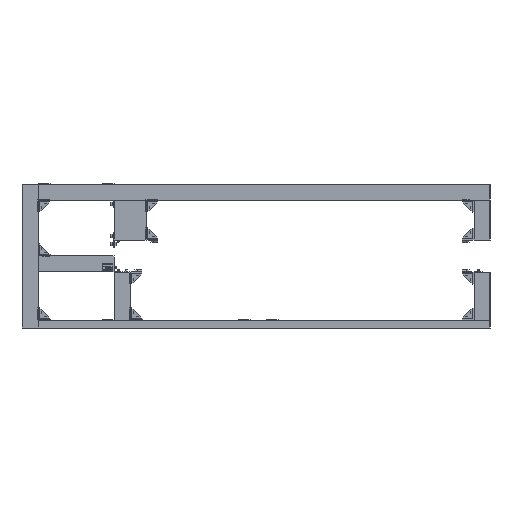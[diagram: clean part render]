
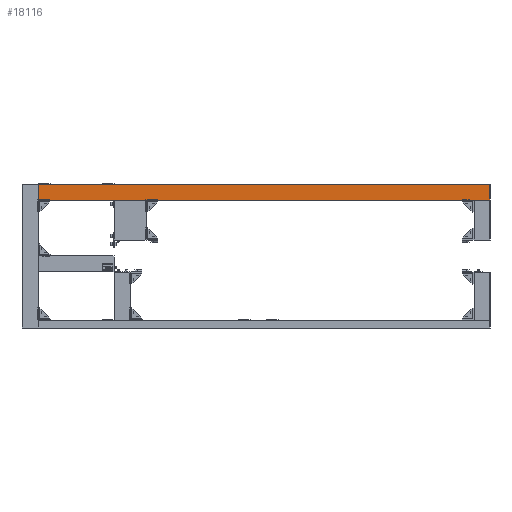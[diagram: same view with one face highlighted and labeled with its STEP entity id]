
A CAD part, left-side view. The second image highlights one B-rep face of the part: STEP entity #18116.
In plain terms, the highlighted planar face has unit normal (-1, 0, 0).
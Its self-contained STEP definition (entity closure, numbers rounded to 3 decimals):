
#18116=ADVANCED_FACE('',(#24598),#214908,.T.);
#24598=FACE_OUTER_BOUND('',#31128,.T.);
#31128=EDGE_LOOP('',(#39770,#39771,#39772,#39773));
#39770=ORIENTED_EDGE('',*,*,#151221,.T.);
#39771=ORIENTED_EDGE('',*,*,#151222,.T.);
#39772=ORIENTED_EDGE('',*,*,#151223,.T.);
#39773=ORIENTED_EDGE('',*,*,#151224,.T.);
#71876=PCURVE('',#214908,#103982);
#71877=PCURVE('',#214908,#103983);
#71878=PCURVE('',#214908,#103984);
#71879=PCURVE('',#214908,#103985);
#71883=PCURVE('',#214909,#103989);
#71889=PCURVE('',#214911,#103995);
#71895=PCURVE('',#214912,#104001);
#71896=PCURVE('',#214913,#104002);
#103982=DEFINITIONAL_REPRESENTATION('',(#168691),#414593);
#103983=DEFINITIONAL_REPRESENTATION('',(#168693),#414593);
#103984=DEFINITIONAL_REPRESENTATION('',(#168695),#414593);
#103985=DEFINITIONAL_REPRESENTATION('',(#168697),#414593);
#103989=DEFINITIONAL_REPRESENTATION('',(#168704),#414593);
#103995=DEFINITIONAL_REPRESENTATION('',(#168714),#414593);
#104001=DEFINITIONAL_REPRESENTATION('',(#168721),#414593);
#104002=DEFINITIONAL_REPRESENTATION('',(#168722),#414593);
#135168=SURFACE_CURVE('',#168690,(#71876,#71895),.PCURVE_S1.);
#135169=SURFACE_CURVE('',#168692,(#71877,#71883),.PCURVE_S1.);
#135170=SURFACE_CURVE('',#168694,(#71878,#71896),.PCURVE_S1.);
#135171=SURFACE_CURVE('',#168696,(#71879,#71889),.PCURVE_S1.);
#151221=EDGE_CURVE('',#204853,#204854,#135168,.T.);
#151222=EDGE_CURVE('',#204854,#204855,#135169,.T.);
#151223=EDGE_CURVE('',#204855,#204856,#135170,.T.);
#151224=EDGE_CURVE('',#204856,#204853,#135171,.T.);
#168690=B_SPLINE_CURVE_WITH_KNOTS('',1,(#239919,#239920),.UNSPECIFIED.,.F.,
 .F.,(2,2),(-200.,-150.),.UNSPECIFIED.);
#168691=B_SPLINE_CURVE_WITH_KNOTS('',1,(#239921,#239922),.UNSPECIFIED.,.F.,
 .F.,(2,2),(-200.,-150.),.UNSPECIFIED.);
#168692=B_SPLINE_CURVE_WITH_KNOTS('',1,(#239923,#239924),.UNSPECIFIED.,.F.,
 .F.,(2,2),(0.,400.),.UNSPECIFIED.);
#168693=B_SPLINE_CURVE_WITH_KNOTS('',1,(#239925,#239926),.UNSPECIFIED.,.F.,
 .F.,(2,2),(0.,400.),.UNSPECIFIED.);
#168694=B_SPLINE_CURVE_WITH_KNOTS('',1,(#239927,#239928),.UNSPECIFIED.,.F.,
 .F.,(2,2),(150.,200.),.UNSPECIFIED.);
#168695=B_SPLINE_CURVE_WITH_KNOTS('',1,(#239929,#239930),.UNSPECIFIED.,.F.,
 .F.,(2,2),(150.,200.),.UNSPECIFIED.);
#168696=B_SPLINE_CURVE_WITH_KNOTS('',1,(#239931,#239932),.UNSPECIFIED.,.F.,
 .F.,(2,2),(-400.,0.),.UNSPECIFIED.);
#168697=B_SPLINE_CURVE_WITH_KNOTS('',1,(#239933,#239934),.UNSPECIFIED.,.F.,
 .F.,(2,2),(-400.,0.),.UNSPECIFIED.);
#168704=B_SPLINE_CURVE_WITH_KNOTS('',1,(#239947,#239948),.UNSPECIFIED.,.F.,
 .F.,(2,2),(0.,400.),.UNSPECIFIED.);
#168714=B_SPLINE_CURVE_WITH_KNOTS('',1,(#239967,#239968),.UNSPECIFIED.,.F.,
 .F.,(2,2),(-400.,0.),.UNSPECIFIED.);
#168721=B_SPLINE_CURVE_WITH_KNOTS('',1,(#239981,#239982),.UNSPECIFIED.,.F.,
 .F.,(2,2),(-200.,-150.),.UNSPECIFIED.);
#168722=B_SPLINE_CURVE_WITH_KNOTS('',1,(#239983,#239984),.UNSPECIFIED.,.F.,
 .F.,(2,2),(150.,200.),.UNSPECIFIED.);
#204853=VERTEX_POINT('',#239911);
#204854=VERTEX_POINT('',#239912);
#204855=VERTEX_POINT('',#239913);
#204856=VERTEX_POINT('',#239914);
#214908=PLANE('',#219542);
#214909=PLANE('',#219543);
#214911=PLANE('',#219545);
#214912=PLANE('',#219546);
#214913=PLANE('',#219547);
#219542=AXIS2_PLACEMENT_3D('',#239905,#224023,$);
#219543=AXIS2_PLACEMENT_3D('',#239906,#224024,$);
#219545=AXIS2_PLACEMENT_3D('',#239908,#224026,$);
#219546=AXIS2_PLACEMENT_3D('',#239909,#224027,$);
#219547=AXIS2_PLACEMENT_3D('',#239910,#224028,$);
#224023=DIRECTION('',(-1.,0.,0.));
#224024=DIRECTION('',(0.,0.,1.));
#224026=DIRECTION('',(0.,0.,-1.));
#224027=DIRECTION('',(0.,-1.,0.));
#224028=DIRECTION('',(0.,1.,0.));
#239905=CARTESIAN_POINT('',(-850.,-585.,140.));
#239906=CARTESIAN_POINT('',(-850.,-585.,180.));
#239908=CARTESIAN_POINT('',(-810.,-585.,140.));
#239909=CARTESIAN_POINT('',(-810.,-585.,140.));
#239910=CARTESIAN_POINT('',(-810.,545.,140.));
#239911=CARTESIAN_POINT('',(-850.,-585.,140.));
#239912=CARTESIAN_POINT('',(-850.,-585.,180.));
#239913=CARTESIAN_POINT('',(-850.,545.,180.));
#239914=CARTESIAN_POINT('',(-850.,545.,140.));
#239919=CARTESIAN_POINT('',(-850.,-585.,140.));
#239920=CARTESIAN_POINT('',(-850.,-585.,180.));
#239921=CARTESIAN_POINT('',(-200.,0.));
#239922=CARTESIAN_POINT('',(-150.,0.));
#239923=CARTESIAN_POINT('',(-850.,-585.,180.));
#239924=CARTESIAN_POINT('',(-850.,545.,180.));
#239925=CARTESIAN_POINT('',(-150.,0.));
#239926=CARTESIAN_POINT('',(-150.,400.));
#239927=CARTESIAN_POINT('',(-850.,545.,180.));
#239928=CARTESIAN_POINT('',(-850.,545.,140.));
#239929=CARTESIAN_POINT('',(-150.,400.));
#239930=CARTESIAN_POINT('',(-200.,400.));
#239931=CARTESIAN_POINT('',(-850.,545.,140.));
#239932=CARTESIAN_POINT('',(-850.,-585.,140.));
#239933=CARTESIAN_POINT('',(-200.,400.));
#239934=CARTESIAN_POINT('',(-200.,0.));
#239947=CARTESIAN_POINT('',(-150.,0.));
#239948=CARTESIAN_POINT('',(-150.,400.));
#239967=CARTESIAN_POINT('',(0.,400.));
#239968=CARTESIAN_POINT('',(0.,0.));
#239981=CARTESIAN_POINT('',(0.,0.));
#239982=CARTESIAN_POINT('',(40.,0.));
#239983=CARTESIAN_POINT('',(0.,40.));
#239984=CARTESIAN_POINT('',(0.,0.));
#414593=(
GEOMETRIC_REPRESENTATION_CONTEXT(2)
PARAMETRIC_REPRESENTATION_CONTEXT()
REPRESENTATION_CONTEXT('pspace','')
);
